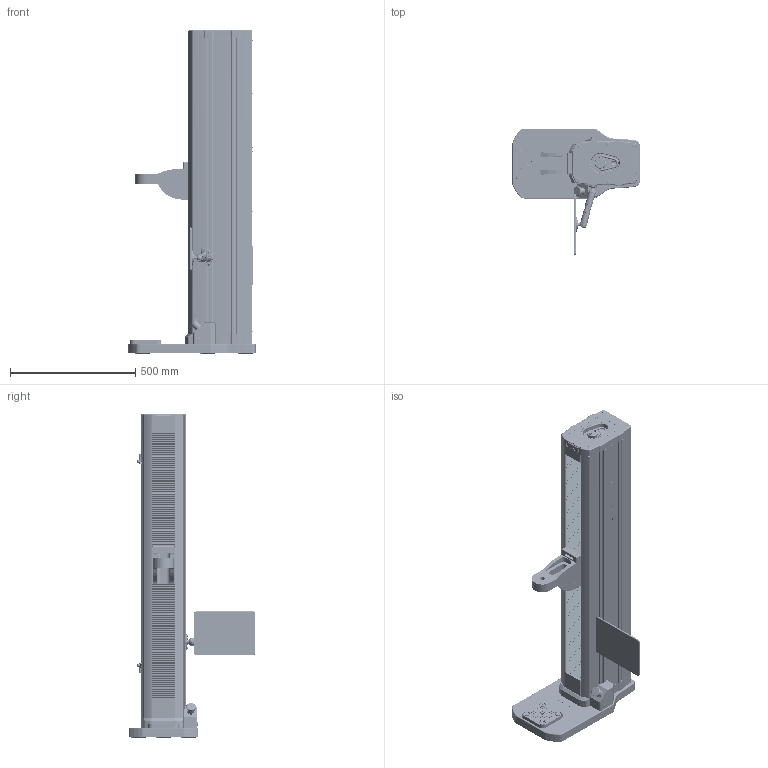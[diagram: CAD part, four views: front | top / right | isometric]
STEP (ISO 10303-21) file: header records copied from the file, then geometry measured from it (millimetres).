
FILE_DESCRIPTION(/* description */ (''),/* implementation_level */ '2;1');
FILE_NAME(/* name */ 'F:\CAD files\Itr\3D MARKETING MODELS\MOTORIZED TEST STANDS\FXXX5X\755-IMT\F755_IMT.stp',/* time_stamp */ '2021-02-05T15:35:04-05:00',/* author */ ('dsollitt'),/* organization */ (''),/* preprocessor_version */ 'ST-DEVELOPER v18.1',/* originating_system */ 'AutoCAD Mechanical',/* authorisation */ '');
FILE_SCHEMA (('AUTOMOTIVE_DESIGN { 1 0 10303 214 3 1 1 }'));
Products named in the file (1): Product
Bounding box: 508 x 506.71 x 1292.75 mm (x, y, z)
Volume: 57845277.8 mm3; surface area: 2576333.6 mm2
Topology: 5 solids, 12 shells, 11557 faces, 33517 edges, 22886 vertices
Faces by surface type: plane 9522, cylinder 1352, cone 268, bspline 203, torus 143, sphere 69
Full cylindrical faces by diameter (mm): 0.4 x1, 0.6 x1, 1.015 x2, 1.55 x4, 1.797 x2, 2 x2, 2.13 x1, 2.845 x14, 3.048 x14, 3.328 x1, 3.505 x2, 3.556 x1, 4.7 x24, 4.826 x48, 5.41 x14, 5.563 x2, 6 x2, 6.35 x45, 6.731 x4, 7.938 x4, 9.169 x2, 9.525 x6, 9.8 x1, 11.43 x1, 11.906 x2, 12.1 x1, 12.7 x3, 12.8 x2, 12.954 x4, 13.462 x2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
Entity records: 401494 total; most frequent: CARTESIAN_POINT 93126, ORIENTED_EDGE 66964, DIRECTION 59299, EDGE_CURVE 33482, LINE 28811, VECTOR 28811, VERTEX_POINT 22883, AXIS2_PLACEMENT_3D 15244
